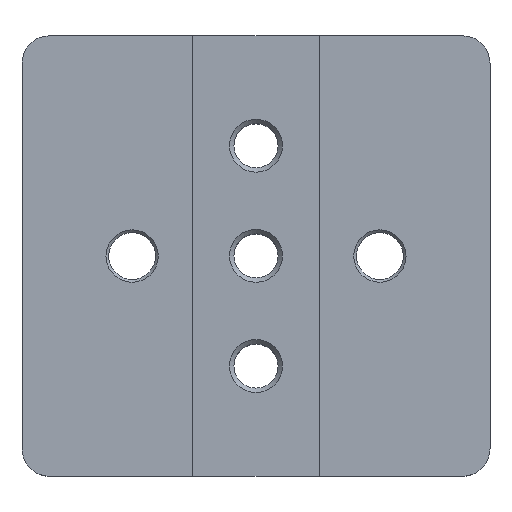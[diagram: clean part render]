
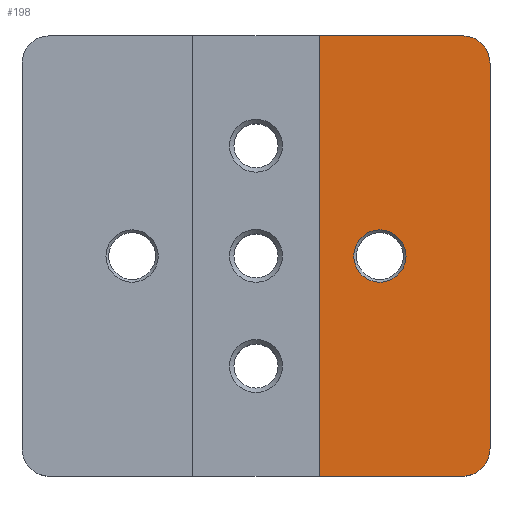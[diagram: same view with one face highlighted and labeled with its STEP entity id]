
A CAD part, top view. The second image highlights one B-rep face of the part: STEP entity #198.
In plain terms, the highlighted planar face has unit normal (0, 0, 1).
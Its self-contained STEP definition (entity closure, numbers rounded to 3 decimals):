
#135=FACE_BOUND('',#260,.T.);
#136=FACE_BOUND('',#261,.T.);
#181=CIRCLE('',#592,4.75);
#182=CIRCLE('',#593,5.);
#183=CIRCLE('',#594,5.);
#198=ADVANCED_FACE('',(#135,#136),#222,.T.);
#222=PLANE('',#595);
#260=EDGE_LOOP('',(#344));
#261=EDGE_LOOP('',(#345,#346,#347,#348,#349,#350));
#344=ORIENTED_EDGE('',*,*,#494,.T.);
#345=ORIENTED_EDGE('',*,*,#448,.T.);
#346=ORIENTED_EDGE('',*,*,#495,.T.);
#347=ORIENTED_EDGE('',*,*,#462,.F.);
#348=ORIENTED_EDGE('',*,*,#496,.T.);
#349=ORIENTED_EDGE('',*,*,#454,.F.);
#350=ORIENTED_EDGE('',*,*,#497,.F.);
#404=VERTEX_POINT('',#765);
#405=VERTEX_POINT('',#767);
#410=VERTEX_POINT('',#779);
#411=VERTEX_POINT('',#780);
#418=VERTEX_POINT('',#796);
#419=VERTEX_POINT('',#797);
#444=VERTEX_POINT('',#863);
#448=EDGE_CURVE('',#405,#404,#504,.T.);
#454=EDGE_CURVE('',#410,#411,#510,.T.);
#462=EDGE_CURVE('',#418,#419,#518,.T.);
#494=EDGE_CURVE('',#444,#444,#181,.T.);
#495=EDGE_CURVE('',#404,#419,#182,.T.);
#496=EDGE_CURVE('',#418,#411,#183,.T.);
#497=EDGE_CURVE('',#405,#410,#528,.T.);
#504=LINE('',#766,#532);
#510=LINE('',#778,#538);
#518=LINE('',#795,#546);
#528=LINE('',#866,#556);
#532=VECTOR('',#620,1.);
#538=VECTOR('',#628,1.);
#546=VECTOR('',#638,1.);
#556=VECTOR('',#716,1.);
#592=AXIS2_PLACEMENT_3D('',#862,#710,#711);
#593=AXIS2_PLACEMENT_3D('',#864,#712,#713);
#594=AXIS2_PLACEMENT_3D('',#865,#714,#715);
#595=AXIS2_PLACEMENT_3D('',#867,#717,#718);
#620=DIRECTION('',(1.,0.,0.));
#628=DIRECTION('',(1.,0.,0.));
#638=DIRECTION('',(0.,-1.,0.));
#710=DIRECTION('',(0.,0.,-1.));
#711=DIRECTION('',(1.,0.,0.));
#712=DIRECTION('',(0.,0.,1.));
#713=DIRECTION('',(1.,0.,0.));
#714=DIRECTION('',(0.,0.,1.));
#715=DIRECTION('',(1.,0.,0.));
#716=DIRECTION('',(0.,1.,0.));
#717=DIRECTION('',(0.,0.,1.));
#718=DIRECTION('',(0.,-1.,0.));
#765=CARTESIAN_POINT('',(37.5,-40.,8.));
#766=CARTESIAN_POINT('',(42.5,-40.,8.));
#767=CARTESIAN_POINT('',(11.5,-40.,8.));
#778=CARTESIAN_POINT('',(42.5,40.,8.));
#779=CARTESIAN_POINT('',(11.5,40.,8.));
#780=CARTESIAN_POINT('',(37.5,40.,8.));
#795=CARTESIAN_POINT('',(42.5,0.,8.));
#796=CARTESIAN_POINT('',(42.5,35.,8.));
#797=CARTESIAN_POINT('',(42.5,-35.,8.));
#862=CARTESIAN_POINT('',(22.5,0.,8.));
#863=CARTESIAN_POINT('',(27.25,0.,8.));
#864=CARTESIAN_POINT('',(37.5,-35.,8.));
#865=CARTESIAN_POINT('',(37.5,35.,8.));
#866=CARTESIAN_POINT('',(11.5,40.,8.));
#867=CARTESIAN_POINT('',(42.5,40.,8.));
